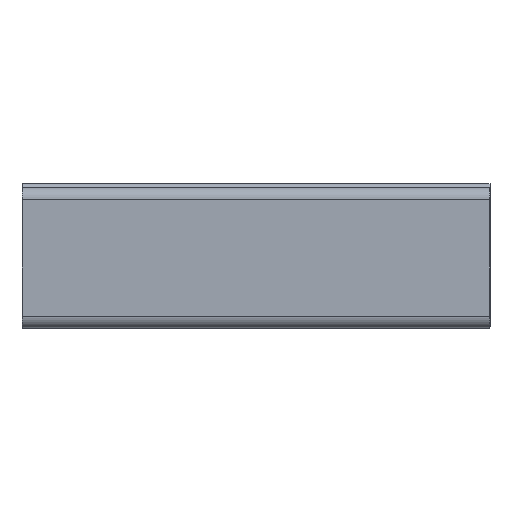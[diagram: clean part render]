
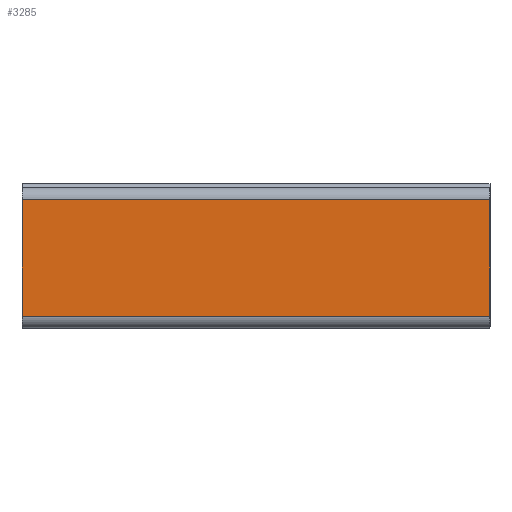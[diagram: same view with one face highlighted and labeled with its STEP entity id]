
A CAD part, top view. The second image highlights one B-rep face of the part: STEP entity #3285.
In plain terms, the highlighted planar face has unit normal (0, 0, 1) as drawn and (0, 1, 0) by its records, which use the part's own axes.
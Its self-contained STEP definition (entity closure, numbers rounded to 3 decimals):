
#156 = DIRECTION ( 'NONE',  ( 0., -1., 0. ) ) ;
#179 = FACE_OUTER_BOUND ( 'NONE', #1500, .T. ) ;
#199 = EDGE_CURVE ( 'NONE', #3572, #1781, #1762, .T. ) ;
#338 = ORIENTED_EDGE ( 'NONE', *, *, #3876, .T. ) ;
#536 = DIRECTION ( 'NONE',  ( 0., 0., 1. ) ) ;
#654 = AXIS2_PLACEMENT_3D ( 'NONE', #1361, #156, #2557 ) ;
#697 = LINE ( 'NONE', #2628, #2092 ) ;
#703 = CARTESIAN_POINT ( 'NONE',  ( 100., 0., -11.917 ) ) ;
#741 = CARTESIAN_POINT ( 'NONE',  ( 100., 0., 13.083 ) ) ;
#742 = CARTESIAN_POINT ( 'NONE',  ( 100., 0., -11.917 ) ) ;
#1112 = PLANE ( 'NONE',  #654 ) ;
#1150 = VECTOR ( 'NONE', #2053, 1000. ) ;
#1361 = CARTESIAN_POINT ( 'NONE',  ( 100., 0., -11.917 ) ) ;
#1395 = LINE ( 'NONE', #741, #3410 ) ;
#1438 = VECTOR ( 'NONE', #2618, 1000. ) ;
#1500 = EDGE_LOOP ( 'NONE', ( #338, #3238, #2767, #2097 ) ) ;
#1762 = LINE ( 'NONE', #3034, #1438 ) ;
#1773 = CARTESIAN_POINT ( 'NONE',  ( 100., 0., 13.083 ) ) ;
#1781 = VERTEX_POINT ( 'NONE', #1773 ) ;
#1837 = LINE ( 'NONE', #742, #1150 ) ;
#1891 = CARTESIAN_POINT ( 'NONE',  ( 0., 0., 13.083 ) ) ;
#2053 = DIRECTION ( 'NONE',  ( -1., 0., 0. ) ) ;
#2092 = VECTOR ( 'NONE', #536, 1000. ) ;
#2097 = ORIENTED_EDGE ( 'NONE', *, *, #2816, .T. ) ;
#2189 = DIRECTION ( 'NONE',  ( -1., 0., 0. ) ) ;
#2518 = CARTESIAN_POINT ( 'NONE',  ( 0., 0., -11.917 ) ) ;
#2557 = DIRECTION ( 'NONE',  ( 0., 0., -1. ) ) ;
#2618 = DIRECTION ( 'NONE',  ( 0., 0., 1. ) ) ;
#2628 = CARTESIAN_POINT ( 'NONE',  ( 0., 0., -11.917 ) ) ;
#2767 = ORIENTED_EDGE ( 'NONE', *, *, #199, .F. ) ;
#2816 = EDGE_CURVE ( 'NONE', #3572, #3656, #1837, .T. ) ;
#3034 = CARTESIAN_POINT ( 'NONE',  ( 100., 0., -11.917 ) ) ;
#3238 = ORIENTED_EDGE ( 'NONE', *, *, #3614, .F. ) ;
#3285 = ADVANCED_FACE ( 'NONE', ( #179 ), #1112, .F. ) ;
#3410 = VECTOR ( 'NONE', #2189, 1000. ) ;
#3565 = VERTEX_POINT ( 'NONE', #1891 ) ;
#3572 = VERTEX_POINT ( 'NONE', #703 ) ;
#3614 = EDGE_CURVE ( 'NONE', #1781, #3565, #1395, .T. ) ;
#3656 = VERTEX_POINT ( 'NONE', #2518 ) ;
#3876 = EDGE_CURVE ( 'NONE', #3656, #3565, #697, .T. ) ;
